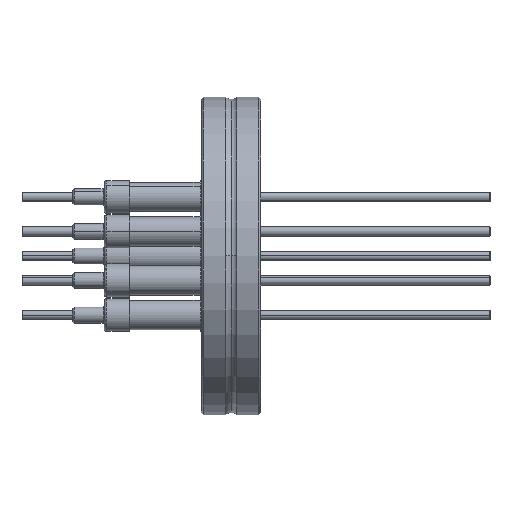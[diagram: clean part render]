
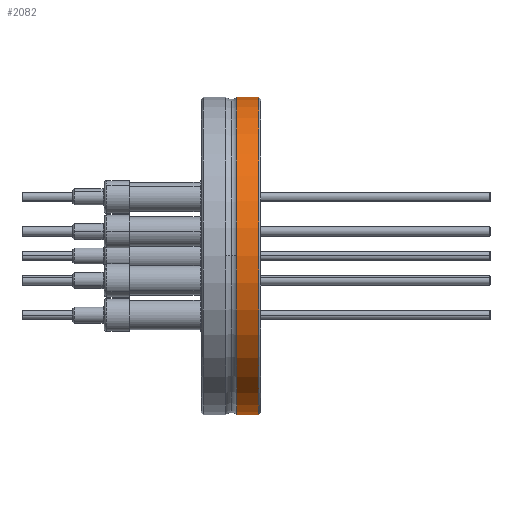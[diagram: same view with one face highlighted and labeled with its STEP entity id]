
A CAD part, top view. The second image highlights one B-rep face of the part: STEP entity #2082.
In plain terms, the highlighted cylindrical face has radius 34.75 mm (diameter 69.5 mm), a partial arc.
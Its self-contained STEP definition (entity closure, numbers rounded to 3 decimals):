
#2032=CARTESIAN_POINT('',(6.5,0.,0.0));
#2033=DIRECTION('',(1.0,0.,0.0));
#2034=DIRECTION('',(0.0,1.0,0.0));
#2035=AXIS2_PLACEMENT_3D('',#2032,#2033,#2034);
#2036=CYLINDRICAL_SURFACE('',#2035,34.75);
#2037=CARTESIAN_POINT('',(7.7,34.75,0.));
#2038=VERTEX_POINT('',#2037);
#2039=CARTESIAN_POINT('',(12.6,34.75,0.));
#2040=VERTEX_POINT('',#2039);
#2041=CARTESIAN_POINT('',(7.7,34.75,0.));
#2042=DIRECTION('',(1.0,0.0,0.0));
#2043=VECTOR('',#2042,4.9);
#2044=LINE('',#2041,#2043);
#2045=EDGE_CURVE('',#2038,#2040,#2044,.T.);
#2046=ORIENTED_EDGE('',*,*,#2045,.F.);
#2047=CARTESIAN_POINT('',(7.7,0.,34.75));
#2048=VERTEX_POINT('',#2047);
#2049=CARTESIAN_POINT('',(7.7,0.,0.0));
#2050=DIRECTION('',(1.0,0.0,0.0));
#2051=DIRECTION('',(0.0,1.0,0.0));
#2052=AXIS2_PLACEMENT_3D('',#2049,#2050,#2051);
#2053=CIRCLE('',#2052,34.75);
#2054=EDGE_CURVE('',#2038,#2048,#2053,.T.);
#2055=ORIENTED_EDGE('',*,*,#2054,.T.);
#2056=CARTESIAN_POINT('',(7.7,-34.75,0.));
#2057=VERTEX_POINT('',#2056);
#2058=CARTESIAN_POINT('',(7.7,0.,0.0));
#2059=DIRECTION('',(1.0,0.0,0.0));
#2060=DIRECTION('',(0.0,1.0,0.0));
#2061=AXIS2_PLACEMENT_3D('',#2058,#2059,#2060);
#2062=CIRCLE('',#2061,34.75);
#2063=EDGE_CURVE('',#2048,#2057,#2062,.T.);
#2064=ORIENTED_EDGE('',*,*,#2063,.T.);
#2065=CARTESIAN_POINT('',(12.6,-34.75,0.));
#2066=VERTEX_POINT('',#2065);
#2067=CARTESIAN_POINT('',(12.6,-34.75,0.));
#2068=DIRECTION('',(-1.0,0.0,0.0));
#2069=VECTOR('',#2068,4.9);
#2070=LINE('',#2067,#2069);
#2071=EDGE_CURVE('',#2066,#2057,#2070,.T.);
#2072=ORIENTED_EDGE('',*,*,#2071,.F.);
#2073=CARTESIAN_POINT('',(12.6,0.,0.0));
#2074=DIRECTION('',(1.0,0.0,0.0));
#2075=DIRECTION('',(0.0,-1.0,0.0));
#2076=AXIS2_PLACEMENT_3D('',#2073,#2074,#2075);
#2077=CIRCLE('',#2076,34.75);
#2078=EDGE_CURVE('',#2040,#2066,#2077,.T.);
#2079=ORIENTED_EDGE('',*,*,#2078,.F.);
#2080=EDGE_LOOP('',(#2046,#2055,#2064,#2072,#2079));
#2081=FACE_OUTER_BOUND('',#2080,.T.);
#2082=ADVANCED_FACE('',(#2081),#2036,.T.);
